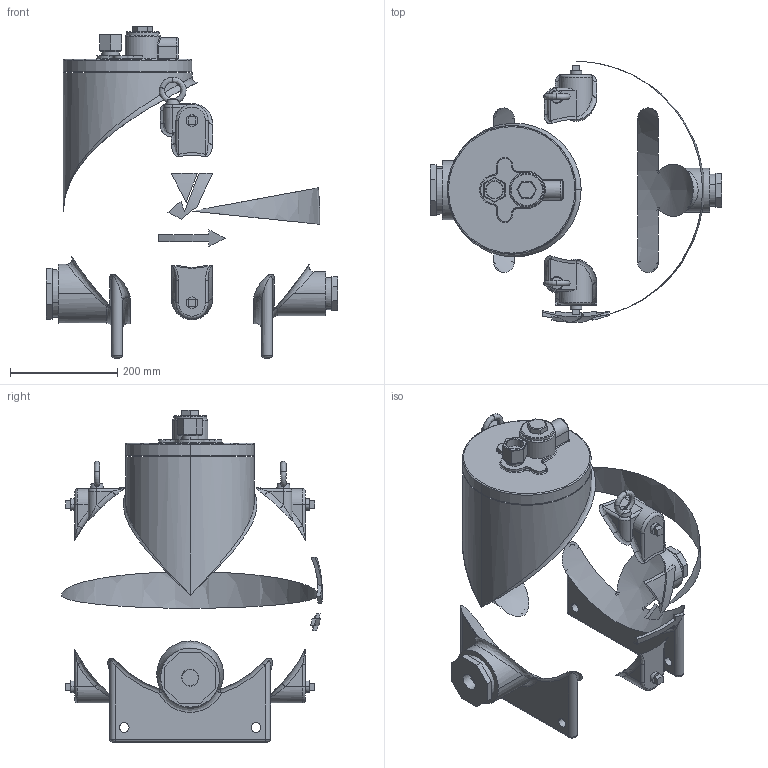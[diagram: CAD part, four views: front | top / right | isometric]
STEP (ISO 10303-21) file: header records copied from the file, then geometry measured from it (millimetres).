
FILE_DESCRIPTION( (''), '2;1');
FILE_NAME ('PC1027.9568.PF-7000 25A_16418.stp','2025-07-28T17:09:47',(''),(''),'spGate 19.8.4 (****-****-****-****)','','');
FILE_SCHEMA (('AUTOMOTIVE_DESIGN'));
Length unit declared in the file: millimetre
Products named in the file (6): Assembly; PF-7000 80A; アイボルト M12; Plug R 1／2; R3-R1 Bush; R2-R1 Bush
Assembly tree (9 placements, depth 2):
  Assembly
    PF-7000 80A
    アイボルト M12  x2
    Plug R 1／2  x4
    R3-R1 Bush
    R2-R1 Bush
Bounding box: 544 x 487 x 619.5 mm (x, y, z)
Volume: 8016027.7 mm3; surface area: 817004.3 mm2
Topology: 19 solids, 19 shells, 394 faces, 878 edges, 541 vertices
Faces by surface type: plane 158, bspline 112, cylinder 101, sphere 23
Entity records: 39309 total; most frequent: CARTESIAN_POINT 25344, ORIENTED_EDGE 1558, DIRECTION 1503, COLOUR_RGB 1126, PRESENTATION_STYLE_ASSIGNMENT 1126, STYLED_ITEM 1126, EDGE_CURVE 779, DRAUGHTING_PRE_DEFINED_CURVE_FONT 779
